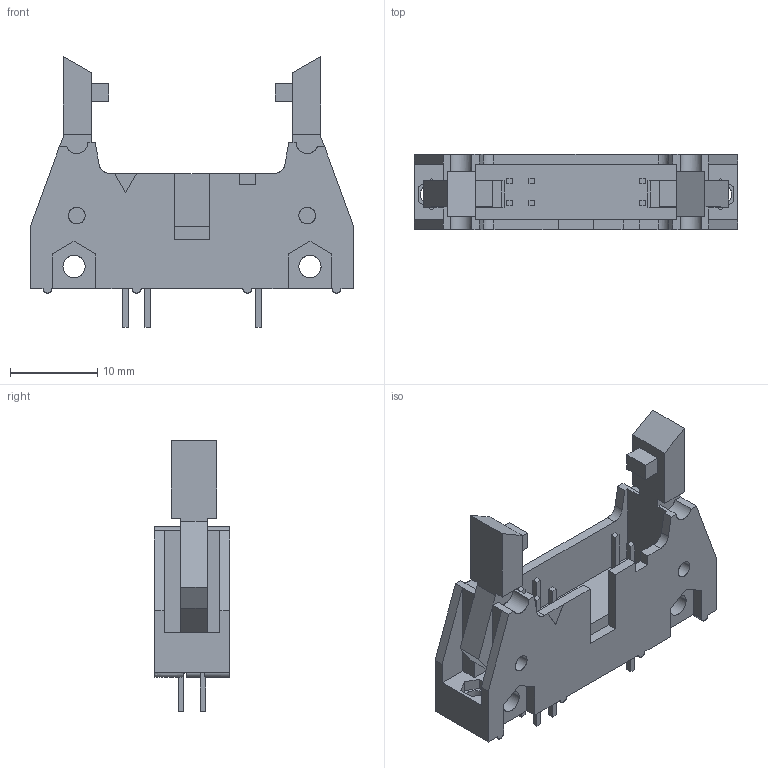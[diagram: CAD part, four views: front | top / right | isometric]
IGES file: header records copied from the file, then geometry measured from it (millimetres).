
Start section: Comment
Global section: file name: 3314-6603.igs; native system:  By Spatial Corp. IGES DAT; preprocessor: XIGES V1.0; author: Author; organization: Title; date: 20060206.165206; units: metre
Bounding box: 37.08 x 8.64 x 31.06 mm (x, y, z)
Surface area: 3415.9 mm2 (no closed solid volume)
Topology: 0 solids, 0 shells, 227 faces, 2570 edges, 2570 vertices
Faces by surface type: extrusion 199, revolution 28
